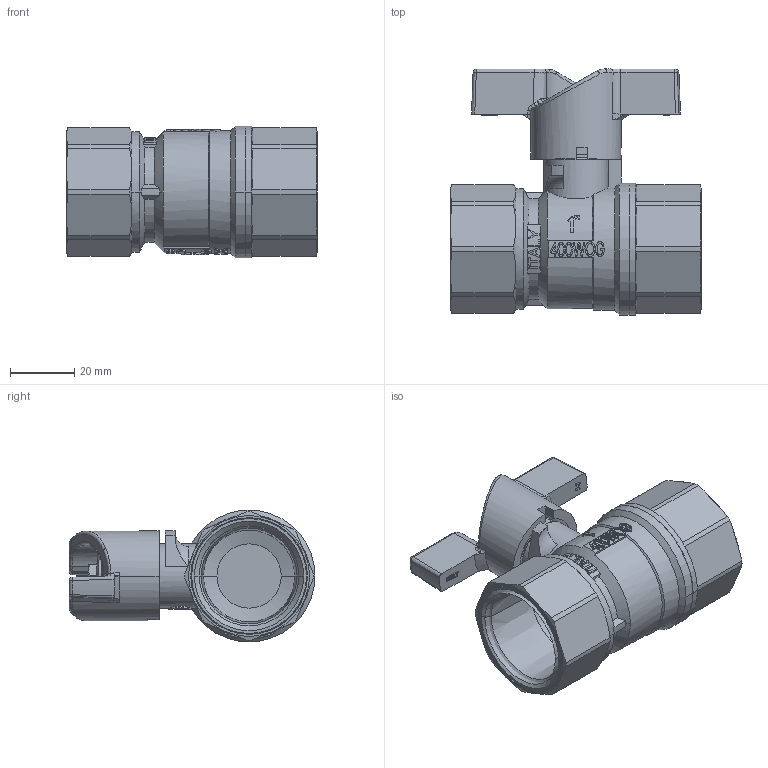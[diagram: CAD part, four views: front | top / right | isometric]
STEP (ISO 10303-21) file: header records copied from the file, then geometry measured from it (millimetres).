
FILE_DESCRIPTION((''),'2;1');
FILE_NAME('T205R_1P_ASM','2022-05-20T10:01:10',('Sergio.Dandrea'),(''),'CREO PARAMETRIC BY PTC INC, 2021164','CREO PARAMETRIC BY PTC INC, 2021164','');
FILE_SCHEMA(('CONFIG_CONTROL_DESIGN'));
Length unit declared in the file: millimetre
Products named in the file (12): 87256; SEDE_PTFE_F20; 87166; OR_107_8X1_5; ASTA_50_3-4_OR_ASM; 87164; 87167; AN_PTFE_SF_20; 87258; 12074; 00128; T205R_1P_ASM
Assembly tree (13 placements, depth 3):
  T205R_1P_ASM
    87256
    SEDE_PTFE_F20  x2
    ASTA_50_3-4_OR_ASM
      87166
      OR_107_8X1_5  x2
    87164
    87167
    AN_PTFE_SF_20
    87258
    12074
    00128
Bounding box: 78 x 76.5 x 41 mm (x, y, z)
Volume: 62228.8 mm3; surface area: 47276 mm2
Topology: 12 solids, 22 shells, 1236 faces, 3251 edges, 2097 vertices
Faces by surface type: extrusion 351, plane 292, cylinder 202, bspline 193, cone 126, torus 48, revolution 16, sphere 8
Entity records: 48200 total; most frequent: CARTESIAN_POINT 20405, ORIENTED_EDGE 6358, DIRECTION 4381, EDGE_CURVE 3205, VERTEX_POINT 2073, B_SPLINE_CURVE_WITH_KNOTS 1640, VECTOR 1577, AXIS2_PLACEMENT_3D 1398
